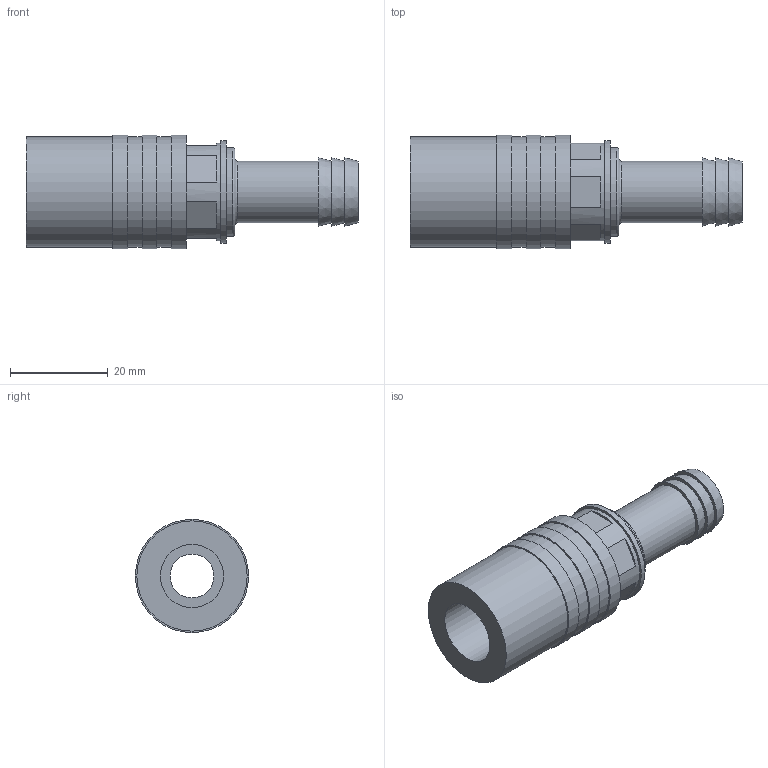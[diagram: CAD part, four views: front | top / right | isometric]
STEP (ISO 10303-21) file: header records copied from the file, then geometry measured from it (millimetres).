
FILE_DESCRIPTION( ( 'STEP AP203' ), ' ' );
FILE_NAME( 'p:/temp/worker_12/2564_2428/app_44_02015120208283077309874192d056f_000000_00_00_000000/format_0/SVK113.stp', '2015-12-02T07:28:31', ( '' ), ( '' ), ' ', 'PARTsolutions', ' ' );
FILE_SCHEMA( ( 'CONFIG_CONTROL_DESIGN' ) );
Length unit declared in the file: millimetre
Products named in the file (1): _SVK113
Bounding box: 68 x 23.2 x 23.2 mm (x, y, z)
Volume: 13418.9 mm3; surface area: 7212.9 mm2
Topology: 1 solids, 1 shells, 44 faces, 85 edges, 56 vertices
Faces by surface type: plane 27, cylinder 12, cone 3, torus 2
Full cylindrical faces by diameter (mm): 9 x1, 12.6 x1, 13 x1, 18.2 x1, 20 x1, 21 x1, 22.6 x3, 23.2 x3
Entity records: 1090 total; most frequent: DIRECTION 200, CARTESIAN_POINT 167, ORIENTED_EDGE 134, AXIS2_PLACEMENT_3D 88, EDGE_LOOP 76, EDGE_CURVE 67, FACE_OUTER_BOUND 58, VERTEX_POINT 55
